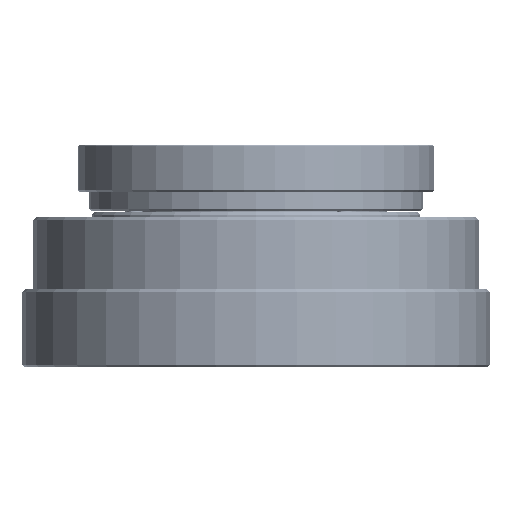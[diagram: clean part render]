
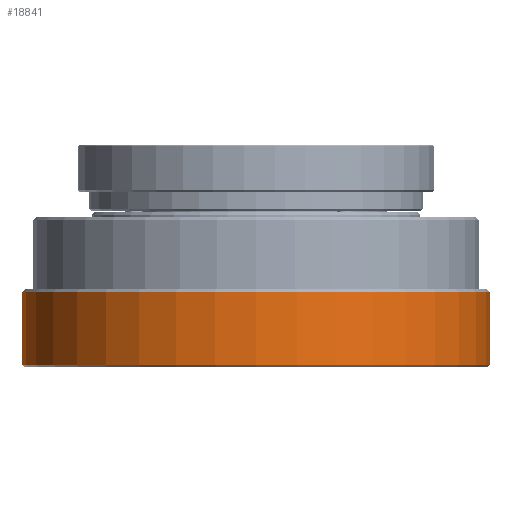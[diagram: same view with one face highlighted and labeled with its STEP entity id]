
A CAD part, front view. The second image highlights one B-rep face of the part: STEP entity #18841.
In plain terms, the highlighted cylindrical face has radius 42 mm (diameter 84 mm), a partial arc.
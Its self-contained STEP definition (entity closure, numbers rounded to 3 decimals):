
#2061 = EDGE_CURVE ( 'NONE', #21348, #75814, #103122, .T. ) ;
#13430 = DIRECTION ( 'NONE',  ( 0., 0., -1. ) ) ;
#18841 = ADVANCED_FACE ( 'NONE', ( #64924 ), #112368, .T. ) ;
#21348 = VERTEX_POINT ( 'NONE', #54848 ) ;
#32867 = LINE ( 'NONE', #70484, #102530 ) ;
#36637 = VERTEX_POINT ( 'NONE', #152299 ) ;
#39550 = EDGE_CURVE ( 'NONE', #75814, #112644, #76624, .T. ) ;
#43137 = AXIS2_PLACEMENT_3D ( 'NONE', #103492, #116602, #153446 ) ;
#46282 = VECTOR ( 'NONE', #151889, 1000. ) ;
#50243 = AXIS2_PLACEMENT_3D ( 'NONE', #152456, #13430, #63324 ) ;
#54848 = CARTESIAN_POINT ( 'NONE',  ( 42., 0., 9.5 ) ) ;
#63324 = DIRECTION ( 'NONE',  ( 1., 0., 0. ) ) ;
#64924 = FACE_OUTER_BOUND ( 'NONE', #118673, .T. ) ;
#66091 = ORIENTED_EDGE ( 'NONE', *, *, #86062, .F. ) ;
#70484 = CARTESIAN_POINT ( 'NONE',  ( 42., 0., 10. ) ) ;
#71021 = DIRECTION ( 'NONE',  ( 0., 0., 1. ) ) ;
#71835 = CARTESIAN_POINT ( 'NONE',  ( 0., 0., -3.5 ) ) ;
#72647 = CARTESIAN_POINT ( 'NONE',  ( -42., 0., 9.5 ) ) ;
#75814 = VERTEX_POINT ( 'NONE', #72647 ) ;
#76624 = LINE ( 'NONE', #128111, #46282 ) ;
#83697 = EDGE_CURVE ( 'NONE', #112644, #36637, #120656, .T. ) ;
#85962 = DIRECTION ( 'NONE',  ( 0., 0., -1. ) ) ;
#86062 = EDGE_CURVE ( 'NONE', #21348, #36637, #32867, .T. ) ;
#86510 = DIRECTION ( 'NONE',  ( 1., 0., 0. ) ) ;
#98105 = CARTESIAN_POINT ( 'NONE',  ( -42., 0., -3.5 ) ) ;
#98274 = ORIENTED_EDGE ( 'NONE', *, *, #39550, .T. ) ;
#102530 = VECTOR ( 'NONE', #85962, 1000. ) ;
#103122 = CIRCLE ( 'NONE', #43137, 42. ) ;
#103492 = CARTESIAN_POINT ( 'NONE',  ( 0., 0., 9.5 ) ) ;
#112368 = CYLINDRICAL_SURFACE ( 'NONE', #50243, 42. ) ;
#112644 = VERTEX_POINT ( 'NONE', #98105 ) ;
#116602 = DIRECTION ( 'NONE',  ( 0., 0., -1. ) ) ;
#118673 = EDGE_LOOP ( 'NONE', ( #143647, #98274, #150748, #66091 ) ) ;
#120656 = CIRCLE ( 'NONE', #141564, 42. ) ;
#128111 = CARTESIAN_POINT ( 'NONE',  ( -42., 0., 10. ) ) ;
#141564 = AXIS2_PLACEMENT_3D ( 'NONE', #71835, #71021, #86510 ) ;
#143647 = ORIENTED_EDGE ( 'NONE', *, *, #2061, .T. ) ;
#150748 = ORIENTED_EDGE ( 'NONE', *, *, #83697, .T. ) ;
#151889 = DIRECTION ( 'NONE',  ( 0., 0., -1. ) ) ;
#152299 = CARTESIAN_POINT ( 'NONE',  ( 42., 0., -3.5 ) ) ;
#152456 = CARTESIAN_POINT ( 'NONE',  ( 0., 0., 10. ) ) ;
#153446 = DIRECTION ( 'NONE',  ( 1., 0., 0. ) ) ;
